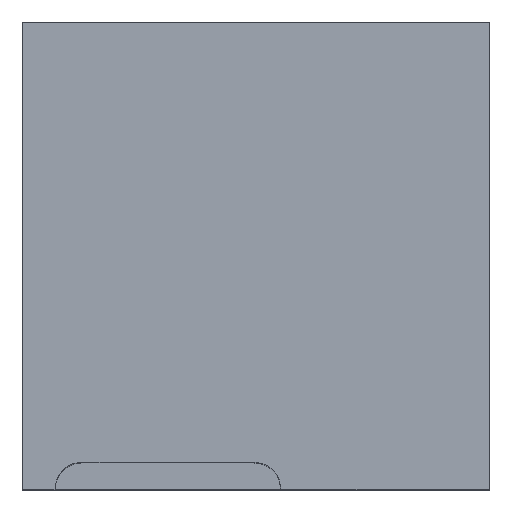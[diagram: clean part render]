
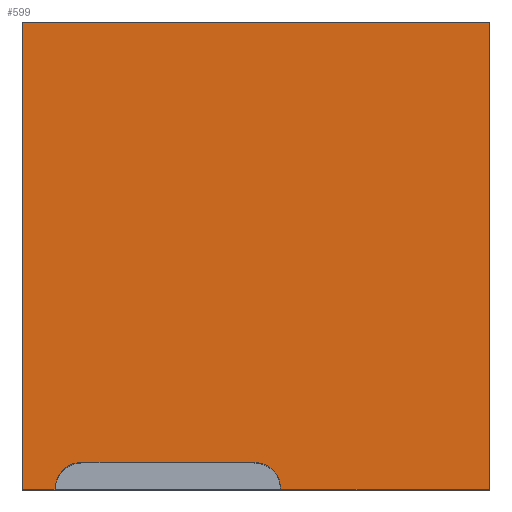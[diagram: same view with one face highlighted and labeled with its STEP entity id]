
A CAD part, top view. The second image highlights one B-rep face of the part: STEP entity #599.
In plain terms, the highlighted planar face has unit normal (0, 0, 1).
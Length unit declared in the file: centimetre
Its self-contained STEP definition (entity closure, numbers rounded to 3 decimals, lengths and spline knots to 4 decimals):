
#5 = LINE ( 'NONE', #73, #872 ) ;
#21 = EDGE_CURVE ( 'NONE', #382, #603, #317, .T. ) ;
#23 = EDGE_LOOP ( 'NONE', ( #403, #95, #92, #166, #189, #693, #525, #674 ) ) ;
#73 = CARTESIAN_POINT ( 'NONE',  ( 1000., 1000., 1000. ) ) ;
#92 = ORIENTED_EDGE ( 'NONE', *, *, #868, .F. ) ;
#95 = ORIENTED_EDGE ( 'NONE', *, *, #837, .F. ) ;
#98 = CARTESIAN_POINT ( 'NONE',  ( 1000., 1000., 1000. ) ) ;
#108 = CARTESIAN_POINT ( 'NONE',  ( 495.2236, 57.568, 1000. ) ) ;
#131 = CARTESIAN_POINT ( 'NONE',  ( 0., 0., 1000. ) ) ;
#139 = CARTESIAN_POINT ( 'NONE',  ( 0., 1000., 1000. ) ) ;
#157 = VECTOR ( 'NONE', #524, 100. ) ;
#159 = VERTEX_POINT ( 'NONE', #865 ) ;
#166 = ORIENTED_EDGE ( 'NONE', *, *, #258, .T. ) ;
#175 = CARTESIAN_POINT ( 'NONE',  ( 495.2236, 57.568, 1000. ) ) ;
#189 = ORIENTED_EDGE ( 'NONE', *, *, #451, .T. ) ;
#212 = DIRECTION ( 'NONE',  ( -1., 0., 0. ) ) ;
#248 = CARTESIAN_POINT ( 'NONE',  ( 0., 1000., 1000. ) ) ;
#258 = EDGE_CURVE ( 'NONE', #159, #304, #735, .T. ) ;
#261 = DIRECTION ( 'NONE',  ( 0., 1., 0. ) ) ;
#272 = CARTESIAN_POINT ( 'NONE',  ( 1000., 0., 1000. ) ) ;
#284 = DIRECTION ( 'NONE',  ( 0., 0., 1. ) ) ;
#304 = VERTEX_POINT ( 'NONE', #272 ) ;
#316 = DIRECTION ( 'NONE',  ( 1., 0., 0. ) ) ;
#317 = LINE ( 'NONE', #248, #795 ) ;
#343 = CARTESIAN_POINT ( 'NONE',  ( 0., 1000., 1000. ) ) ;
#349 = DIRECTION ( 'NONE',  ( -1., 0., 0. ) ) ;
#356 = CARTESIAN_POINT ( 'NONE',  ( 69.8001, 0., 1000. ) ) ;
#374 = VECTOR ( 'NONE', #212, 100. ) ;
#382 = VERTEX_POINT ( 'NONE', #139 ) ;
#391 = CARTESIAN_POINT ( 'NONE',  ( 495.2236, 0., 1000. ) ) ;
#393 = EDGE_CURVE ( 'NONE', #668, #382, #690, .T. ) ;
#396 = AXIS2_PLACEMENT_3D ( 'NONE', #721, #873, #316 ) ;
#403 = ORIENTED_EDGE ( 'NONE', *, *, #723, .F. ) ;
#421 = DIRECTION ( 'NONE',  ( 1., 0., 0. ) ) ;
#428 = FACE_OUTER_BOUND ( 'NONE', #23, .T. ) ;
#434 = CARTESIAN_POINT ( 'NONE',  ( 127.3681, 57.568, 1000. ) ) ;
#451 = EDGE_CURVE ( 'NONE', #304, #668, #5, .T. ) ;
#462 = AXIS2_PLACEMENT_3D ( 'NONE', #789, #284, #575 ) ;
#470 = DIRECTION ( 'NONE',  ( 0., 0., 1. ) ) ;
#505 = EDGE_CURVE ( 'NONE', #603, #591, #707, .T. ) ;
#524 = DIRECTION ( 'NONE',  ( 1., 0., 0. ) ) ;
#525 = ORIENTED_EDGE ( 'NONE', *, *, #21, .T. ) ;
#537 = DIRECTION ( 'NONE',  ( 0., -1., 0. ) ) ;
#568 = PLANE ( 'NONE',  #462 ) ;
#573 = CIRCLE ( 'NONE', #396, 57.568 ) ;
#575 = DIRECTION ( 'NONE',  ( 1., 0., 0. ) ) ;
#586 = AXIS2_PLACEMENT_3D ( 'NONE', #391, #470, #421 ) ;
#591 = VERTEX_POINT ( 'NONE', #356 ) ;
#599 = ADVANCED_FACE ( 'NONE', ( #428 ), #568, .T. ) ;
#600 = VERTEX_POINT ( 'NONE', #434 ) ;
#603 = VERTEX_POINT ( 'NONE', #719 ) ;
#620 = DIRECTION ( 'NONE',  ( 1., 0., 0. ) ) ;
#660 = VERTEX_POINT ( 'NONE', #108 ) ;
#668 = VERTEX_POINT ( 'NONE', #98 ) ;
#669 = LINE ( 'NONE', #175, #816 ) ;
#674 = ORIENTED_EDGE ( 'NONE', *, *, #505, .T. ) ;
#690 = LINE ( 'NONE', #343, #374 ) ;
#693 = ORIENTED_EDGE ( 'NONE', *, *, #393, .T. ) ;
#707 = LINE ( 'NONE', #131, #788 ) ;
#719 = CARTESIAN_POINT ( 'NONE',  ( 0., 0., 1000. ) ) ;
#721 = CARTESIAN_POINT ( 'NONE',  ( 127.3681, 0., 1000. ) ) ;
#723 = EDGE_CURVE ( 'NONE', #600, #591, #573, .T. ) ;
#735 = LINE ( 'NONE', #876, #157 ) ;
#788 = VECTOR ( 'NONE', #620, 100. ) ;
#789 = CARTESIAN_POINT ( 'NONE',  ( 0., 0., 1000. ) ) ;
#795 = VECTOR ( 'NONE', #537, 100. ) ;
#816 = VECTOR ( 'NONE', #349, 100. ) ;
#837 = EDGE_CURVE ( 'NONE', #660, #600, #669, .T. ) ;
#854 = CIRCLE ( 'NONE', #586, 57.568 ) ;
#865 = CARTESIAN_POINT ( 'NONE',  ( 552.7916, 0., 1000. ) ) ;
#868 = EDGE_CURVE ( 'NONE', #159, #660, #854, .T. ) ;
#872 = VECTOR ( 'NONE', #261, 100. ) ;
#873 = DIRECTION ( 'NONE',  ( 0., 0., 1. ) ) ;
#876 = CARTESIAN_POINT ( 'NONE',  ( 0., 0., 1000. ) ) ;
